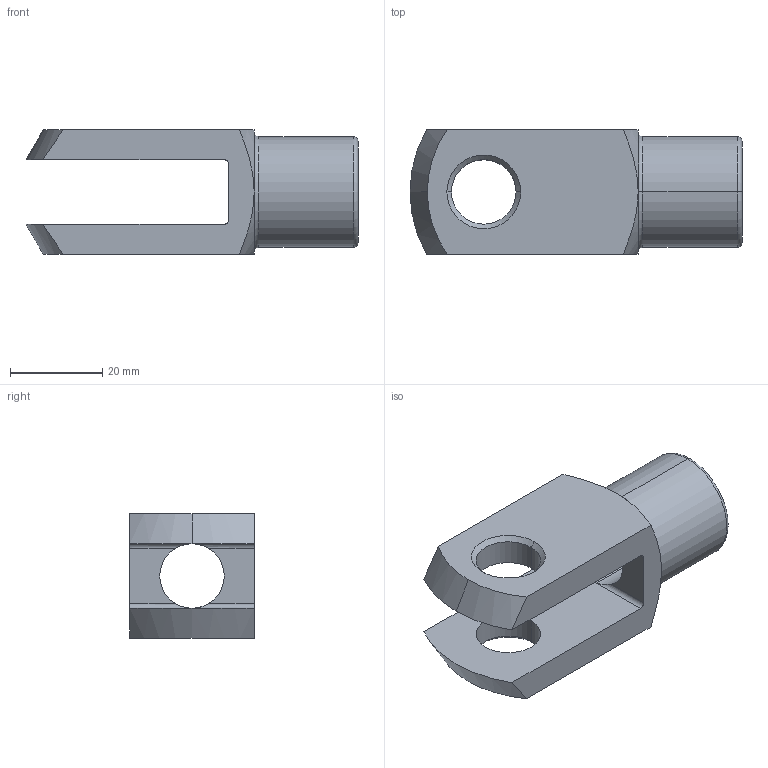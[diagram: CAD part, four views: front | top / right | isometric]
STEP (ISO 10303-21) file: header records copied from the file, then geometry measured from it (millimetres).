
FILE_DESCRIPTION (( 'STEP AP203' ), '1' );
FILE_NAME ('65635.W0143.step', '2014-01-17T13:06:42', ( 'User' ), ( '' ), 'SwSTEP 2.0', 'SolidWorks 2009', '' );
FILE_SCHEMA (( 'CONFIG_CONTROL_DESIGN' ));
Length unit declared in the file: millimetre
Products named in the file (1): 65635.W0143
Bounding box: 72 x 27 x 27 mm (x, y, z)
Volume: 22014.7 mm3; surface area: 9857.9 mm2
Topology: 1 solids, 1 shells, 39 faces, 93 edges, 56 vertices
Faces by surface type: cone 13, cylinder 12, plane 10, torus 4
Entity records: 1316 total; most frequent: CARTESIAN_POINT 321, DIRECTION 201, ORIENTED_EDGE 186, EDGE_CURVE 93, AXIS2_PLACEMENT_3D 84, VERTEX_POINT 56, EDGE_LOOP 45, CIRCLE 44
